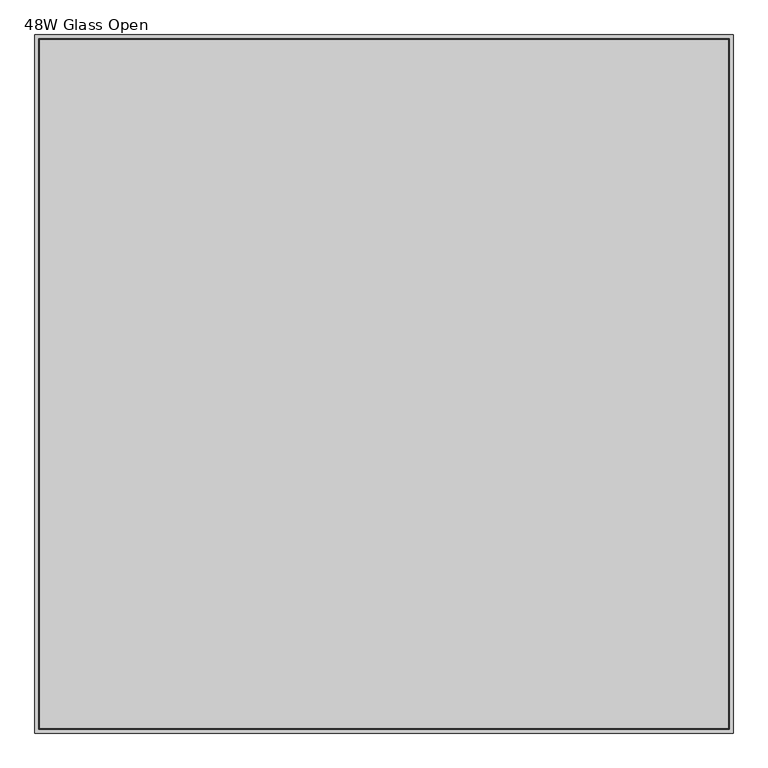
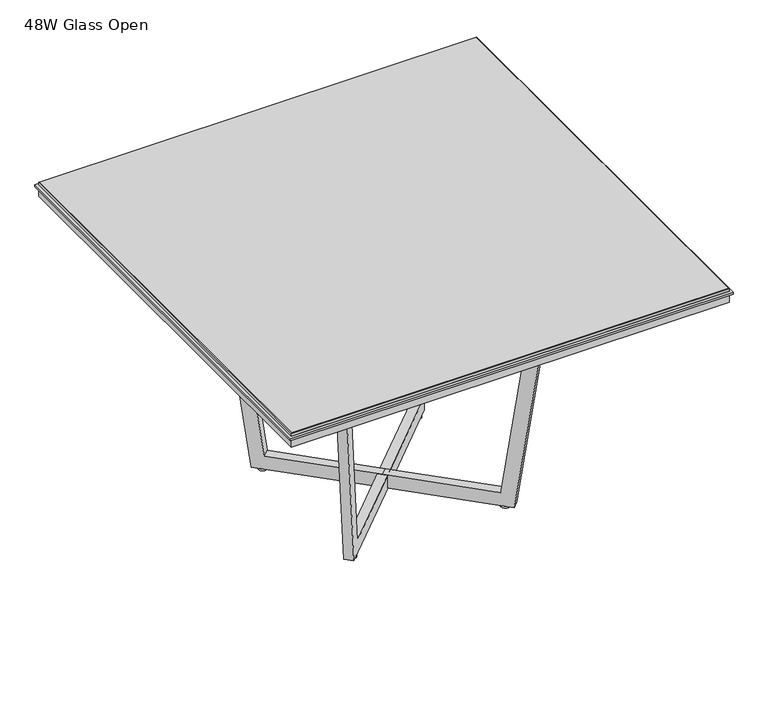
"""IFC4 building model written with IfcOpenShell, lengths in millimetres: furniture geometry, Knoll_Datesweiser_Tables_Meeting_Highline_Square : 48W Glass Open."""

from ifc_helpers import new_model, si_unit, point, frame, frame_2d, origin, origin_with_axes, place, context, project, spatial, polyline, circle_curve, trimmed, segment, composite_curve, outline, extrude, faceted_brep, source, transform, mapped, element, save


def furniture_48w_glass_open_f0cac7ba(model_context):
    return source(origin(), model_context, "Body", "SolidModel", [
        extrude(outline(polyline([(609.6, 609.6), (609.6, -609.6), (-609.6, -609.6), (-609.6, 609.6), (609.6, 609.6)])), frame((0.0, 0.0, 698.5), z_axis=(0.0, 0.0, 1.0), x_axis=(1.0, 0.0, 0.0)), (0.0, 0.0, 1.0), 25.4),
        extrude(outline(polyline([(615.95, 615.95), (615.95, -615.95), (-615.95, -615.95), (-615.95, 615.95), (615.95, 615.95)])), frame((0.0, 0.0, 723.9), z_axis=(0.0, 0.0, 1.0), x_axis=(1.0, 0.0, 0.0)), (0.0, 0.0, 1.0), 6.35),
        faceted_brep([(-609.6, 609.6, 738.759), (-609.6, 609.6, 731.266), (-609.6, -609.6, 731.266), (-609.6, -609.6, 738.759), (-608.584, -608.584, 739.775), (-608.584, 608.584, 739.775), (-608.584, 608.584, 730.25), (-608.584, -608.584, 730.25), (609.6, -609.6, 731.266), (609.6, -609.6, 738.759), (608.584, -608.584, 739.775), (608.584, -608.584, 730.25), (609.6, 609.6, 731.266), (609.6, 609.6, 738.759), (608.584, 608.584, 739.775), (608.584, 608.584, 730.25)], [[[0, 1, 2, 3]], [[0, 3, 4, 5]], [[2, 1, 6, 7]], [[3, 2, 8, 9]], [[4, 3, 9, 10]], [[2, 7, 11, 8]], [[9, 8, 12, 13]], [[10, 9, 13, 14]], [[8, 11, 15, 12]], [[1, 0, 13, 12]], [[0, 5, 14, 13]], [[6, 1, 12, 15]], [[5, 4, 10, 14]], [[7, 6, 15, 11]]]),
        extrude(outline(composite_curve([segment(trimmed(circle_curve(frame_2d((-214.2640473, -214.2640473)), 12.7), [point((-201.5640473, -214.2640473))], [point((-226.9640473, -214.2640473))], False, "CARTESIAN"), True, "CONTINUOUS"), segment(trimmed(circle_curve(frame_2d((-214.2640473, -214.2640473)), 12.7), [point((-226.9640473, -214.2640473))], [point((-201.5640473, -214.2640473))], False, "CARTESIAN"), True, "CONTINUOUS")], self_intersect=False)), origin_with_axes(), (0.0, 0.0, 1.0), 5.9867797),
        extrude(outline(composite_curve([segment(trimmed(circle_curve(frame_2d((-214.2640473, 214.2640473)), 12.7), [point((-201.5640473, 214.2640473))], [point((-226.9640473, 214.2640473))], False, "CARTESIAN"), True, "CONTINUOUS"), segment(trimmed(circle_curve(frame_2d((-214.2640473, 214.2640473)), 12.7), [point((-226.9640473, 214.2640473))], [point((-201.5640473, 214.2640473))], False, "CARTESIAN"), True, "CONTINUOUS")], self_intersect=False)), origin_with_axes(), (0.0, 0.0, 1.0), 5.9867797),
        extrude(outline(composite_curve([segment(trimmed(circle_curve(frame_2d((214.2640473, -214.2640473)), 12.7), [point((226.9640473, -214.2640473))], [point((201.5640473, -214.2640473))], False, "CARTESIAN"), True, "CONTINUOUS"), segment(trimmed(circle_curve(frame_2d((214.2640473, -214.2640473)), 12.7), [point((201.5640473, -214.2640473))], [point((226.9640473, -214.2640473))], False, "CARTESIAN"), True, "CONTINUOUS")], self_intersect=False)), origin_with_axes(), (0.0, 0.0, 1.0), 5.9867797),
        extrude(outline(composite_curve([segment(trimmed(circle_curve(frame_2d((214.2640473, 214.2640473)), 12.7), [point((226.9640473, 214.2640473))], [point((201.5640473, 214.2640473))], False, "CARTESIAN"), True, "CONTINUOUS"), segment(trimmed(circle_curve(frame_2d((214.2640473, 214.2640473)), 12.7), [point((201.5640473, 214.2640473))], [point((226.9640473, 214.2640473))], False, "CARTESIAN"), True, "CONTINUOUS")], self_intersect=False)), origin_with_axes(), (0.0, 0.0, 1.0), 5.9867797),
        extrude(outline(polyline([(-328.4154116, 0.0), (0.0, 0.0), (96.4293466, -692.6387226), (57.9549435, -692.5888898), (-33.1691487, -38.0570712), (-328.4642085, -37.6745992), (-623.7592682, -37.2921272), (-716.578577, -691.5856987), (-755.0529801, -691.5358658), (-656.8297213, 0.8507388), (-328.4154116, 0.0)])), frame((223.2443137, -241.2048259, 5.9867797), z_axis=(0.7071067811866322, 0.7071067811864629, 0.0), x_axis=(0.7071061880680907, -0.70710618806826, -0.001295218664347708)), (0.0, 0.0, 1.0), 25.4),
        extrude(outline(polyline([(328.4154116, 0.0), (656.8297213, 0.8507388), (755.0529801, -691.5358658), (716.578577, -691.5856987), (623.7592682, -37.2921272), (328.4642085, -37.6745992), (33.1691487, -38.0570712), (-57.9549435, -692.5888898), (-96.4293466, -692.6387226), (0.0, 0.0), (328.4154116, 0.0)])), frame((-223.2443137, -241.2048259, 5.9867797), z_axis=(-0.707106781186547, 0.7071067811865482, 0.0), x_axis=(0.7071061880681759, 0.7071061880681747, 0.001295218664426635)), (0.0, 0.0, 1.0), 25.4),
    ])


if __name__ == "__main__":
    model = new_model("IFC4")
    model_context = context("Model", 3, world=origin())
    ifc_project = project(units=[si_unit("LENGTHUNIT", "METRE", prefix="MILLI")], contexts=[model_context])
    site = spatial("IfcSite", under=ifc_project)
    building = spatial("IfcBuilding", under=site)
    placement = place(None, origin())
    furniture_48w_glass_open_shape = furniture_48w_glass_open_f0cac7ba(model_context)
    element("IfcFurniture", 1, ObjectType="Knoll_Datesweiser_Tables_Meeting_Highline_Square : 48W Glass Open", at=placement, inside=building, context=model_context, shape_type="MappedRepresentation", body=[
        mapped(furniture_48w_glass_open_shape, transform((0.0, 0.0, 0.0), x_axis=(1.0, 0.0, 0.0), y_axis=(0.0, 1.0, 0.0), z_axis=(0.0, 0.0, 1.0))),
    ])
    save(model, "model.ifc")
